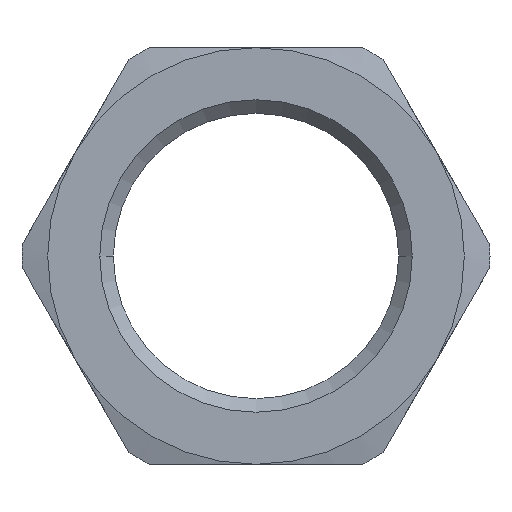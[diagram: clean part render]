
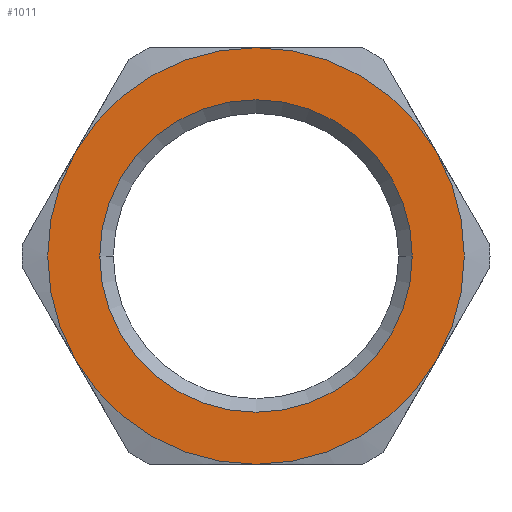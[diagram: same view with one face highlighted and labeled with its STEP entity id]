
A CAD part, left-side view. The second image highlights one B-rep face of the part: STEP entity #1011.
In plain terms, the highlighted planar face has unit normal (-1, 0, 0) as drawn and (0, 0, 1) by its records, which use the part's own axes.
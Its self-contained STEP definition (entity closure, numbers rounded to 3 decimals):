
#299=CARTESIAN_POINT('',(0.,11.25,3.5));
#300=VERTEX_POINT('',#299);
#314=CARTESIAN_POINT('',(0.,-11.25,3.5));
#315=VERTEX_POINT('',#314);
#322=CARTESIAN_POINT('',(0.,0.,3.5));
#323=DIRECTION('',(0.0,0.0,-1.0));
#324=DIRECTION('',(0.0,1.0,0.0));
#325=AXIS2_PLACEMENT_3D('',#322,#323,#324);
#326=CIRCLE('',#325,11.25);
#327=EDGE_CURVE('',#300,#315,#326,.T.);
#338=CARTESIAN_POINT('',(0.,0.,3.5));
#339=DIRECTION('',(0.0,0.0,-1.0));
#340=DIRECTION('',(0.0,1.0,0.0));
#341=AXIS2_PLACEMENT_3D('',#338,#339,#340);
#342=CIRCLE('',#341,11.25);
#343=EDGE_CURVE('',#315,#300,#342,.T.);
#626=CARTESIAN_POINT('',(-15.,0.,3.5));
#627=VERTEX_POINT('',#626);
#641=CARTESIAN_POINT('',(-7.5,12.99,3.5));
#642=VERTEX_POINT('',#641);
#643=CARTESIAN_POINT('',(0.,0.0,3.5));
#644=DIRECTION('',(0.0,0.0,1.0));
#645=DIRECTION('',(1.0,0.0,0.0));
#646=AXIS2_PLACEMENT_3D('',#643,#644,#645);
#647=CIRCLE('',#646,15.);
#648=EDGE_CURVE('',#642,#627,#647,.T.);
#702=CARTESIAN_POINT('',(-7.5,-12.99,3.5));
#703=VERTEX_POINT('',#702);
#717=CARTESIAN_POINT('',(0.,0.0,3.5));
#718=DIRECTION('',(0.0,0.0,1.0));
#719=DIRECTION('',(1.0,0.0,0.0));
#720=AXIS2_PLACEMENT_3D('',#717,#718,#719);
#721=CIRCLE('',#720,15.);
#722=EDGE_CURVE('',#627,#703,#721,.T.);
#764=CARTESIAN_POINT('',(7.5,-12.99,3.5));
#765=VERTEX_POINT('',#764);
#779=CARTESIAN_POINT('',(0.,0.0,3.5));
#780=DIRECTION('',(0.0,0.0,1.0));
#781=DIRECTION('',(1.0,0.0,0.0));
#782=AXIS2_PLACEMENT_3D('',#779,#780,#781);
#783=CIRCLE('',#782,15.);
#784=EDGE_CURVE('',#703,#765,#783,.T.);
#827=CARTESIAN_POINT('',(15.,0.0,3.5));
#828=VERTEX_POINT('',#827);
#842=CARTESIAN_POINT('',(0.,0.0,3.5));
#843=DIRECTION('',(0.0,0.0,1.0));
#844=DIRECTION('',(1.0,0.0,0.0));
#845=AXIS2_PLACEMENT_3D('',#842,#843,#844);
#846=CIRCLE('',#845,15.);
#847=EDGE_CURVE('',#765,#828,#846,.T.);
#872=CARTESIAN_POINT('',(7.5,12.99,3.5));
#873=VERTEX_POINT('',#872);
#874=CARTESIAN_POINT('',(0.,0.0,3.5));
#875=DIRECTION('',(0.0,0.0,1.0));
#876=DIRECTION('',(1.0,0.0,0.0));
#877=AXIS2_PLACEMENT_3D('',#874,#875,#876);
#878=CIRCLE('',#877,15.);
#879=EDGE_CURVE('',#873,#642,#878,.T.);
#917=CARTESIAN_POINT('',(0.,0.0,3.5));
#918=DIRECTION('',(0.0,0.0,1.0));
#919=DIRECTION('',(1.0,0.0,0.0));
#920=AXIS2_PLACEMENT_3D('',#917,#918,#919);
#921=CIRCLE('',#920,15.);
#922=EDGE_CURVE('',#828,#873,#921,.T.);
#994=CARTESIAN_POINT('',(0.0,0.,3.5));
#995=DIRECTION('',(0.0,0.0,1.0));
#996=DIRECTION('',(1.0,0.0,0.0));
#997=AXIS2_PLACEMENT_3D('',#994,#995,#996);
#998=PLANE('',#997);
#999=ORIENTED_EDGE('',*,*,#847,.T.);
#1000=ORIENTED_EDGE('',*,*,#922,.T.);
#1001=ORIENTED_EDGE('',*,*,#879,.T.);
#1002=ORIENTED_EDGE('',*,*,#648,.T.);
#1003=ORIENTED_EDGE('',*,*,#722,.T.);
#1004=ORIENTED_EDGE('',*,*,#784,.T.);
#1005=EDGE_LOOP('',(#999,#1000,#1001,#1002,#1003,#1004));
#1006=FACE_OUTER_BOUND('',#1005,.T.);
#1007=ORIENTED_EDGE('',*,*,#327,.T.);
#1008=ORIENTED_EDGE('',*,*,#343,.T.);
#1009=EDGE_LOOP('',(#1007,#1008));
#1010=FACE_BOUND('',#1009,.T.);
#1011=ADVANCED_FACE('',(#1006,#1010),#998,.T.);
